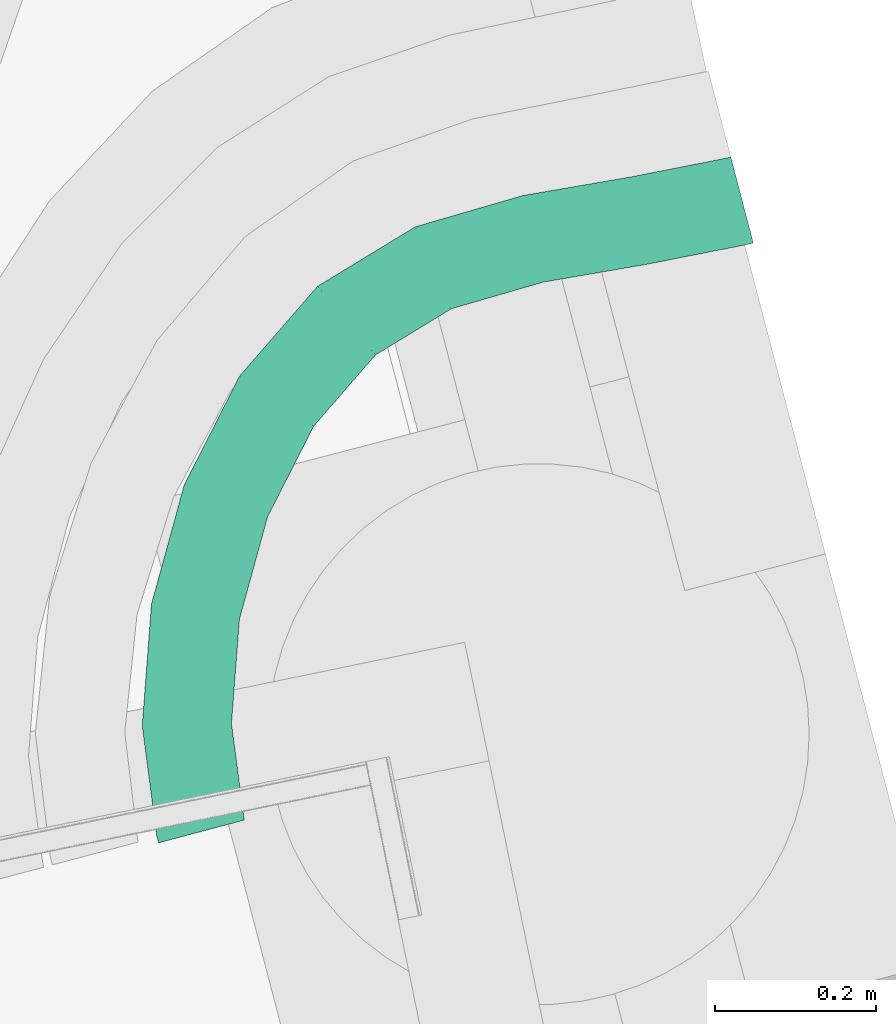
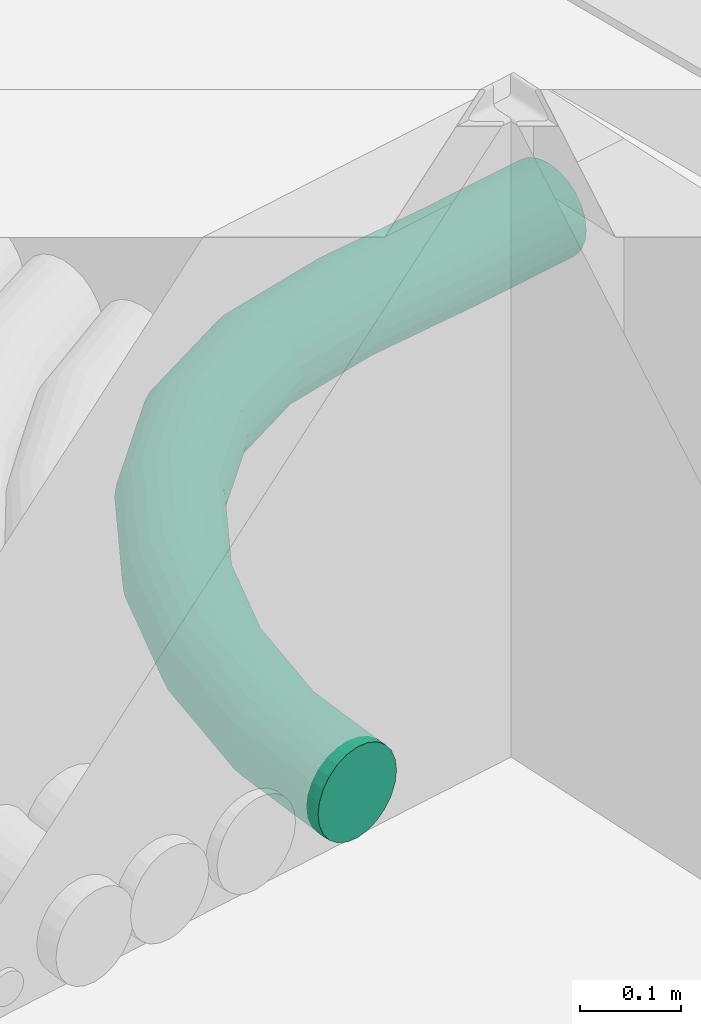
# One storey, part 23 of 29: 1 flow segment.
"""IFC2X3 building model written with IfcOpenShell, lengths in centimetres."""

import ifcopenshell
import ifcopenshell.guid

model = None  # the IFC model being written
_history = None  # IfcOwnerHistory: only IFC2X3 demands one
_inside = {}  # id of a spatial element -> (the spatial element, [elements in it])
_under = {}  # id of a project, library or spatial element -> (it, [spatial elements below it])
_declared = {}  # id of a project -> (the project, [libraries it declares])
_typed = {}  # id of a type object -> (the type object, [elements of that type])
_made_of = {}  # id of a material, layer set ... -> (it, [elements and type objects made of it])


def new_model(schema):
    """Start an empty IFC model of exactly this schema.

    Asked for "IFC4X3", IfcOpenShell would pick the latest addendum, in which some entities
    have other attributes; the version numbers below select the first issue.
    IFC2X3 requires an IfcOwnerHistory on every rooted entity: one is made here for all.
    """
    global model, _history
    if schema == "IFC4X3":
        model = ifcopenshell.file(schema_version=(4, 3, 0, 0))
    else:
        model = ifcopenshell.file(schema=schema)
    _inside.clear()
    _under.clear()
    _declared.clear()
    _typed.clear()
    _made_of.clear()
    _history = None
    if model.schema == "IFC2X3":
        org = make("IfcOrganization", Name="unknown")
        user = make(
            "IfcPersonAndOrganization",
            ThePerson=make("IfcPerson", FamilyName="unknown"),
            TheOrganization=org,
        )
        app = make(
            "IfcApplication",
            ApplicationDeveloper=org,
            Version="unknown",
            ApplicationFullName="unknown",
            ApplicationIdentifier="unknown",
        )
        _history = make(
            "IfcOwnerHistory",
            OwningUser=user,
            OwningApplication=app,
            ChangeAction="ADDED",
            CreationDate=0,
        )
    return model


def make(cls, **values):
    """One entity of the class cls with the attributes given. An attribute that is None is left unset."""
    return model.create_entity(
        cls, **{name: value for name, value in values.items() if value is not None}
    )


def entity(cls, *values):
    """Any entity or typed value of the class cls, its attributes in the order of the schema. None: left unset."""
    e = model.create_entity(cls)
    for i, value in enumerate(values):
        if value is not None:
            e[i] = value
    return e


def rooted(cls, **values):
    """An entity with a GlobalId (a new one), such as an element, a storey or a relation."""
    return make(cls, GlobalId=ifcopenshell.guid.new(), OwnerHistory=_history, **values)


def si_unit(unit_type, name, prefix=None):
    """IfcSIUnit, for example si_unit("LENGTHUNIT", "METRE", prefix="MILLI")."""
    return make("IfcSIUnit", UnitType=unit_type, Prefix=prefix, Name=name)


def converted_unit(unit_type, name, factor, base, dimensions=None, offset=None):
    """IfcConversionBasedUnit, such as the inch: factor (a typed value) times the base unit."""
    return make(
        "IfcConversionBasedUnit"
        if offset is None
        else "IfcConversionBasedUnitWithOffset",
        ConversionOffset=offset,
        Dimensions=None
        if dimensions is None
        else entity("IfcDimensionalExponents", *dimensions),
        UnitType=unit_type,
        Name=name,
        ConversionFactor=make(
            "IfcMeasureWithUnit", ValueComponent=factor, UnitComponent=base
        ),
    )


def derived_unit(unit_type, elements):
    """IfcDerivedUnit: a product of units, each with its exponent."""
    return make(
        "IfcDerivedUnit",
        Elements=[
            make("IfcDerivedUnitElement", Unit=unit, Exponent=power)
            for unit, power in elements
        ],
        UnitType=unit_type,
    )


def assignment(units):
    """IfcUnitAssignment: the units of a project."""
    return None if units is None else make("IfcUnitAssignment", Units=units)


def point(xyz):
    """IfcCartesianPoint."""
    return None if xyz is None else make("IfcCartesianPoint", Coordinates=xyz)


def direction(xyz):
    """IfcDirection."""
    return None if xyz is None else make("IfcDirection", DirectionRatios=xyz)


def frame(location, z_axis=None, x_axis=None):
    """IfcAxis2Placement3D, a coordinate frame: its origin and axes. An axis left out is left unset."""
    return make(
        "IfcAxis2Placement3D",
        Location=point(location),
        Axis=direction(z_axis),
        RefDirection=direction(x_axis),
    )


def origin():
    """The frame at (0, 0, 0) with its axes left unset."""
    return frame((0.0, 0.0, 0.0))


def place(relative_to, where):
    """IfcLocalPlacement: puts the frame where relative to a parent placement (None: the world)."""
    return make(
        "IfcLocalPlacement", PlacementRelTo=relative_to, RelativePlacement=where
    )


def context(
    kind, dimensions, precision=None, world=None, true_north=None, identifier=None
):
    """IfcGeometricRepresentationContext, for example the 3D "Model" context."""
    return make(
        "IfcGeometricRepresentationContext",
        ContextIdentifier=identifier,
        ContextType=kind,
        CoordinateSpaceDimension=dimensions,
        Precision=precision,
        WorldCoordinateSystem=world,
        TrueNorth=true_north,
    )


def subcontext(parent, identifier, kind, view, scale=None):
    """IfcGeometricRepresentationSubContext, for example "Body" below "Model"."""
    return make(
        "IfcGeometricRepresentationSubContext",
        ContextIdentifier=identifier,
        ContextType=kind,
        ParentContext=parent,
        TargetScale=scale,
        TargetView=view,
    )


def project(units=None, contexts=None):
    """IfcProject with its units and contexts."""
    return rooted(
        "IfcProject",
        Name="project",
        RepresentationContexts=contexts,
        UnitsInContext=assignment(units),
    )


def spatial(cls, under=None, at=None, **own):
    """A site, building, storey or space (cls), placed at a placement, below another one or the project."""
    s = rooted(cls, ObjectPlacement=at, **own)
    if under is not None:
        _under.setdefault(under.id(), (under, []))[1].append(s)
    return s


def faces_of(points, faces, orient=None, outer=None):
    """IfcFace entities. A face is a list of loops; a loop is a list of indices into points, from 0.

    orient and outer hold one flag for each loop. By default every Orientation is true, the
    first loop of a face is its IfcFaceOuterBound and the others are IfcFaceBound.
    """
    made = []
    for i, loops in enumerate(faces):
        bounds = []
        for j, loop in enumerate(loops):
            is_outer = j == 0 if outer is None else outer[i][j]
            bounds.append(
                make(
                    "IfcFaceOuterBound" if is_outer else "IfcFaceBound",
                    Bound=make("IfcPolyLoop", Polygon=[points[k] for k in loop]),
                    Orientation=True if orient is None else orient[i][j],
                )
            )
        made.append(make("IfcFace", Bounds=bounds))
    return made


def faceted_brep(points, faces, orient=None, outer=None, voids=None):
    """IfcFacetedBrep: a solid bounded by flat faces; with voids (closed shells), ...WithVoids."""
    shared = [point(p) for p in points]
    hull = make("IfcClosedShell", CfsFaces=faces_of(shared, faces, orient, outer))
    if voids is None:
        return make("IfcFacetedBrep", Outer=hull)
    return make(
        "IfcFacetedBrepWithVoids",
        Outer=hull,
        Voids=[
            make(cls, CfsFaces=faces_of(shared, fs, o, b)) for cls, fs, o, b in voids
        ],
    )


def shape(context_of_items, identifier, shape_type, items):
    """IfcShapeRepresentation: the items that make up one representation, for example the "Body"."""
    return make(
        "IfcShapeRepresentation",
        ContextOfItems=context_of_items,
        RepresentationIdentifier=identifier,
        RepresentationType=shape_type,
        Items=items,
    )


def made_of(thing, what):
    """Note that an element or type object is made of a material, layer set ...; save() writes the relation."""
    if what is not None:
        _made_of.setdefault(what.id(), (what, []))[1].append(thing)
    return thing


def type_object(cls, material=None, **own):
    """A type object (cls), such as IfcWallType, which elements share."""
    return made_of(rooted(cls, **own), material)


def element(
    cls,
    number,
    at=None,
    inside=None,
    cuts=None,
    type_object=None,
    material=None,
    context=None,
    identifier="Body",
    shape_type=None,
    held_by="IfcProductDefinitionShape",
    body=None,
    shapes=None,
    **own,
):
    """One element of the class cls, such as IfcWall. Its Tag is "e" and its number.

    at: its placement. inside: the storey or other place that contains it. cuts: it is an
    opening in that element (IfcRelVoidsElement). A single representation is given by context,
    identifier, shape_type and body (its items); several are given by shapes. held_by: the class
    of the entity that holds the representations. save() writes the other relations.
    """
    e = rooted(cls, Tag="e%d" % number, ObjectPlacement=at, **own)
    if body is not None:
        shapes = [shape(context, identifier, shape_type, body)]
    if shapes is not None:
        e.Representation = make(held_by, Representations=shapes)
    if inside is not None:
        _inside.setdefault(inside.id(), (inside, []))[1].append(e)
    if cuts is not None:
        rooted(
            "IfcRelVoidsElement", RelatingBuildingElement=cuts, RelatedOpeningElement=e
        )
    if type_object is not None:
        _typed.setdefault(type_object.id(), (type_object, []))[1].append(e)
    return made_of(e, material)


def aggregate(whole, parts):
    """IfcRelAggregates: a whole, such as a stair, and the parts it consists of."""
    return rooted("IfcRelAggregates", RelatingObject=whole, RelatedObjects=parts)


def save(model, path):
    """Write the relations noted so far, then the file.

    IfcRelAggregates (storeys below a building ...), IfcRelContainedInSpatialStructure (elements
    in a storey), IfcRelDefinesByType, IfcRelAssociatesMaterial and IfcRelDeclares: one each for
    every whole, place, type object, material and project.
    """
    for whole, parts in _under.values():
        aggregate(whole, parts)
    for where, things in _inside.values():
        rooted(
            "IfcRelContainedInSpatialStructure",
            RelatedElements=things,
            RelatingStructure=where,
        )
    for kind, things in _typed.values():
        rooted("IfcRelDefinesByType", RelatedObjects=things, RelatingType=kind)
    for what, things in _made_of.values():
        rooted("IfcRelAssociatesMaterial", RelatedObjects=things, RelatingMaterial=what)
    for by, libraries in _declared.values():
        rooted("IfcRelDeclares", RelatingContext=by, RelatedDefinitions=libraries)
    model.write(path)


model = new_model("IFC2X3")

# Units and contexts
model_context = context("Model", 3, precision=0.001, world=origin(), true_north=direction((6.12303176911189e-17, 1.0)))
body_context = subcontext(model_context, "Body", "Model", "MODEL_VIEW")
ifc_project = project(units=[si_unit("LENGTHUNIT", "METRE", prefix="CENTI"), si_unit("AREAUNIT", "SQUARE_METRE"), si_unit("VOLUMEUNIT", "CUBIC_METRE"), converted_unit("PLANEANGLEUNIT", "DEGREE", entity("IfcRatioMeasure", 0.0174532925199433), si_unit("PLANEANGLEUNIT", "RADIAN"), dimensions=[0, 0, 0, 0, 0, 0, 0]), si_unit("MASSUNIT", "GRAM", prefix="KILO"), derived_unit("MASSDENSITYUNIT", [(si_unit("MASSUNIT", "GRAM", prefix="KILO"), 1), (si_unit("LENGTHUNIT", "METRE"), -3)]), si_unit("TIMEUNIT", "SECOND"), si_unit("FREQUENCYUNIT", "HERTZ"), si_unit("THERMODYNAMICTEMPERATUREUNIT", "DEGREE_CELSIUS"), derived_unit("THERMALTRANSMITTANCEUNIT", [(si_unit("MASSUNIT", "GRAM", prefix="KILO"), 1), (si_unit("THERMODYNAMICTEMPERATUREUNIT", "KELVIN"), -1), (si_unit("TIMEUNIT", "SECOND"), -3)]), derived_unit("VOLUMETRICFLOWRATEUNIT", [(si_unit("LENGTHUNIT", "METRE"), 3), (si_unit("TIMEUNIT", "SECOND"), -1)]), si_unit("ELECTRICCURRENTUNIT", "AMPERE"), si_unit("ELECTRICVOLTAGEUNIT", "VOLT"), si_unit("POWERUNIT", "WATT"), si_unit("FORCEUNIT", "NEWTON"), si_unit("ILLUMINANCEUNIT", "LUX"), si_unit("LUMINOUSFLUXUNIT", "LUMEN"), si_unit("LUMINOUSINTENSITYUNIT", "CANDELA"), derived_unit("USERDEFINED", [(si_unit("MASSUNIT", "GRAM", prefix="KILO"), -1), (si_unit("LENGTHUNIT", "METRE"), -2), (si_unit("TIMEUNIT", "SECOND"), 3), (si_unit("LUMINOUSFLUXUNIT", "LUMEN"), 1)]), derived_unit("LINEARVELOCITYUNIT", [(si_unit("LENGTHUNIT", "METRE"), 1), (si_unit("TIMEUNIT", "SECOND"), -1)]), si_unit("PRESSUREUNIT", "PASCAL"), derived_unit("USERDEFINED", [(si_unit("LENGTHUNIT", "METRE"), -2), (si_unit("MASSUNIT", "GRAM", prefix="KILO"), 1), (si_unit("TIMEUNIT", "SECOND"), -2)])], contexts=[model_context])

# Site, building, storey
site_placement = place(None, origin())
site = spatial("IfcSite", under=ifc_project, at=site_placement, Name="Default", CompositionType="ELEMENT")
building_placement = place(site_placement, origin())
building = spatial("IfcBuilding", under=site, at=building_placement, Name="CAGE 03", CompositionType="ELEMENT")
storey_placement = place(building_placement, frame((0.0, 0.0, -34.0)))
storey = spatial("IfcBuildingStorey", under=building, at=storey_placement, Name="+3.66", CompositionType="ELEMENT", Elevation=-34.0000000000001)

# Flow segment
duct_segment_type = type_object("IfcDuctSegmentType", Name="Gaine flexible circulaire:Flex - Round", PredefinedType="FLEXIBLESEGMENT")
flow_segment_placement = place(storey_placement, frame((11615.560215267, 3547.95736597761, -79.1595272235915)))
element("IfcFlowSegment", 1, at=flow_segment_placement, inside=storey, type_object=duct_segment_type, Name="Gaine flexible circulaire:Flex - Round", ObjectType="Gaine flexible circulaire:Flex - Round", context=body_context, shape_type="Brep", body=[
    faceted_brep([(2.90191541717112, 0.348971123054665, 8.4095272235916), (2.37093246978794, 0.207709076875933, 7.08303197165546), (2.18982407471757, 0.159527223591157, 5.6595272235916), (2.37093246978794, 0.207709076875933, 4.23602247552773), (2.90191541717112, 0.348971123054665, 2.9095272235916), (3.74658730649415, 0.573686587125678, 1.77043992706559), (4.84738514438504, 0.86654148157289, 0.896387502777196), (6.12929137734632, 1.20757822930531, 0.346935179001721), (7.50494621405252, 1.57355573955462, 0.159527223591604), (8.88060105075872, 1.93953324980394, 0.346935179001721), (10.16250728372, 2.28056999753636, 0.896387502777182), (11.2633051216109, 2.57342489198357, 1.77043992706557), (12.1079770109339, 2.79814035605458, 2.90952722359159), (12.6389599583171, 2.93940240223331, 4.23602247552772), (12.8200683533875, 2.98758425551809, 5.65952722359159), (12.6389599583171, 2.93940240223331, 7.08303197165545), (12.1079770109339, 2.79814035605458, 8.40952722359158), (11.2633051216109, 2.57342489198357, 9.5486145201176), (10.16250728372, 2.28056999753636, 10.422666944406), (8.88060105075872, 1.93953324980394, 10.9721192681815), (7.50494621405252, 1.57355573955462, 11.1595272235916), (6.12929137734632, 1.20757822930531, 10.9721192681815), (4.84738514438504, 0.86654148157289, 10.422666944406), (3.74658730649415, 0.573686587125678, 9.54861452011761), (1.95283391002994, 1.05033788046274, 5.6595272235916), (2.13705214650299, 1.08683030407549, 4.2360224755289), (2.67715268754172, 1.19382067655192, 2.90952722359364), (3.53632857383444, 1.36401778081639, 1.77043992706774), (4.65602838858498, 1.5858229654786, 0.896387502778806), (5.95994643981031, 1.844120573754, 0.346935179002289), (7.35922286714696, 2.12130805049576, 0.159527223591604), (8.75849929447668, 2.39849552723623, 0.346935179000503), (10.0624173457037, 2.65679313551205, 0.89638750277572), (11.182117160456, 2.8785983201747, 1.7704399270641), (12.5813935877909, 3.15578579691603, 4.2360224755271), (12.765611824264, 3.19227822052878, 5.65952722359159), (12.0412930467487, 3.04879542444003, 2.90952722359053), (12.0412930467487, 3.04879542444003, 8.4095272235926), (11.182117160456, 2.8785983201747, 9.54861452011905), (12.5813935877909, 3.15578579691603, 7.083031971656), (8.75849929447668, 2.39849552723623, 10.9721192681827), (7.35922286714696, 2.12130805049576, 11.1595272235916), (10.0624173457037, 2.65679313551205, 10.4226669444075), (5.95994643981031, 1.844120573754, 10.9721192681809), (4.65602838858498, 1.5858229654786, 10.4226669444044), (3.53632857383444, 1.36401778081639, 9.5486145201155), (2.67715268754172, 1.19382067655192, 8.40952722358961), (2.13705214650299, 1.08683030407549, 7.08303197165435), (73.1134058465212, 84.9024727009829, 7.08303197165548), (73.2522412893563, 84.3708501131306, 8.40952722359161), (73.4730965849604, 83.525160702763, 9.54861452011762), (73.7609208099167, 82.4230368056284, 10.422666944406), (74.0960992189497, 81.1395863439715, 10.9721192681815), (74.4557899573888, 79.7622743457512, 11.1595272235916), (74.8154806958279, 78.3849623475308, 10.9721192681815), (75.1506591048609, 77.1015118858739, 10.422666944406), (75.4384833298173, 75.9993879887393, 9.54861452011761), (75.6593386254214, 75.1536985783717, 8.4095272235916), (75.7981740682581, 74.6220759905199, 7.08303197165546), (75.8455282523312, 74.4407494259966, 5.6595272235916), (75.7981740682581, 74.6220759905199, 4.23602247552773), (75.6593386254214, 75.1536985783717, 2.9095272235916), (75.4384833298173, 75.9993879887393, 1.77043992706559), (75.1506591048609, 77.1015118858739, 0.896387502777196), (74.8154806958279, 78.3849623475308, 0.346935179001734), (74.4557899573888, 79.7622743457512, 0.159527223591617), (74.0960992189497, 81.1395863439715, 0.346935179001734), (73.7609208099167, 82.4230368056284, 0.896387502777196), (73.4730965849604, 83.525160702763, 1.7704399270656), (73.2522412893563, 84.3708501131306, 2.90952722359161), (73.1134058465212, 84.9024727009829, 4.23602247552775), (73.0660516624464, 85.0837992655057, 5.65952722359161), (0.159527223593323, 14.650043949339, 5.65952722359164), (0.347874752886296, 14.6552215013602, 4.236022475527), (0.900081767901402, 14.6704013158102, 2.90952722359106), (1.77851627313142, 14.6945489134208, 1.77043992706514), (2.9233144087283, 14.7260186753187, 0.896387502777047), (4.25646007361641, 14.7626659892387, 0.346935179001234), (5.68710159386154, 14.8019934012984, 0.159527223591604), (7.1177431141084, 14.841320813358, 0.3469351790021), (8.45088877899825, 14.8779681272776, 0.896387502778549), (9.59568691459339, 14.909437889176, 1.77043992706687), (10.4741214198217, 14.9335854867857, 2.90952722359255), (11.0263284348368, 14.9487653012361, 4.23602247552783), (11.2146759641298, 14.9539428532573, 5.65952722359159), (11.0263284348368, 14.9487653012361, 7.08303197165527), (10.4741214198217, 14.9335854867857, 8.40952722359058), (9.59568691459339, 14.909437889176, 9.54861452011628), (7.1177431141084, 14.841320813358, 10.9721192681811), (5.68710159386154, 14.8019934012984, 11.1595272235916), (8.45088877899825, 14.8779681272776, 10.4226669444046), (4.25646007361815, 14.7626659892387, 10.972119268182), (2.9233144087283, 14.7260186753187, 10.4226669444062), (1.77851627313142, 14.6945489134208, 9.5486145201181), (0.900081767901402, 14.6704013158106, 8.40952722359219), (0.347874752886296, 14.6552215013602, 7.0830319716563), (1.31166755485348, 29.7521876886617, 5.65952722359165), (1.49715811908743, 29.7199164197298, 4.23602247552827), (2.04098893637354, 29.6253018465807, 2.90952722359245), (2.90609883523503, 29.4747917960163, 1.77043992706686), (4.03353200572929, 29.2786432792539, 0.896387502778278), (5.34645574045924, 29.0502234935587, 0.346935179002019), (6.75539645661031, 28.8050988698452, 0.15952722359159), (8.16433717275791, 28.5599742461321, 0.346935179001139), (9.47726090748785, 28.331554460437, 0.896387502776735), (10.6046940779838, 28.1354059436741, 1.77043992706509), (11.4698039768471, 27.9848958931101, 2.90952722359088), (12.0136347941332, 27.890281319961, 4.2360224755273), (12.1991253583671, 27.8580100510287, 5.65952722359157), (12.0136347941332, 27.890281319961, 7.08303197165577), (11.4698039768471, 27.9848958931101, 8.40952722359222), (10.6046940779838, 28.1354059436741, 9.54861452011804), (8.16433717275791, 28.5599742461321, 10.972119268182), (6.75539645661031, 28.8050988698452, 11.1595272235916), (9.47726090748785, 28.331554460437, 10.4226669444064), (5.34645574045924, 29.0502234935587, 10.9721192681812), (4.03353200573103, 29.2786432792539, 10.4226669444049), (2.90609883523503, 29.4747917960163, 9.54861452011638), (2.04098893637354, 29.6253018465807, 8.40952722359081), (1.49715811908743, 29.7199164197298, 7.08303197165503), (5.37177749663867, 44.516277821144, 5.65952722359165), (5.54743096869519, 44.4482351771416, 4.23602247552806), (6.06242089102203, 44.2487442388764, 2.90952722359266), (6.88165155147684, 43.9313999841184, 1.77043992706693), (7.949293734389, 43.5178288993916, 0.896387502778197), (9.19258938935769, 43.0362151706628, 0.34693517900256), (10.5268099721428, 42.5193799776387, 0.159527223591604), (11.8610305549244, 42.002544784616, 0.346935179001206), (13.1043262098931, 41.5209310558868, 0.896387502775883), (14.1719683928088, 41.1073599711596, 1.77043992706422), (14.9911990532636, 40.7900157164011, 2.90952722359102), (15.5061889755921, 40.5905247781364, 4.23602247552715), (15.6818424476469, 40.5224821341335, 5.65952722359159), (15.5061889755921, 40.5905247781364, 7.08303197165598), (14.9911990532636, 40.7900157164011, 8.40952722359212), (14.171968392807, 41.1073599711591, 9.54861452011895), (11.8610305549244, 42.002544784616, 10.972119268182), (10.5268099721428, 42.5193799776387, 11.1595272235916), (13.1043262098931, 41.5209310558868, 10.4226669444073), (9.19258938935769, 43.0362151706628, 10.9721192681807), (7.949293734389, 43.5178288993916, 10.422666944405), (6.88165155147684, 43.9313999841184, 9.54861452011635), (6.06242089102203, 44.2487442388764, 8.40952722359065), (5.54743096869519, 44.4482351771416, 7.08303197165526), (12.2222541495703, 57.9765332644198, 5.65952722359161), (12.3788613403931, 57.8710672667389, 4.23602247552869), (12.8380103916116, 57.5618566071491, 2.90952722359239), (13.5684110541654, 57.0699734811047, 1.77043992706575), (14.5202877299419, 56.4289389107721, 0.89638750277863), (15.6287715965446, 55.682438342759, 0.346935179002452), (16.8183213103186, 54.881344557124, 0.159527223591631), (18.0078710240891, 54.0802507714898, 0.346935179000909), (19.1163548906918, 53.3337502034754, 0.896387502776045), (20.0682315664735, 52.6927156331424, 1.77043992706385), (20.7986322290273, 52.2008325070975, 2.90952722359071), (21.2577812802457, 51.8916218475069, 4.23602247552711), (21.4143884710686, 51.786155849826, 5.65952722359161), (21.2577812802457, 51.8916218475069, 7.08303197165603), (20.7986322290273, 52.2008325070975, 8.40952722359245), (20.0682315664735, 52.6927156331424, 9.54861452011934), (18.0078710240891, 54.0802507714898, 10.9721192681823), (16.8183213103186, 54.881344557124, 11.1595272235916), (19.1163548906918, 53.3337502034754, 10.4226669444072), (15.6287715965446, 55.682438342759, 10.9721192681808), (14.5202877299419, 56.4289389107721, 10.4226669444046), (13.5684110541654, 57.0699734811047, 9.54861452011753), (12.8380103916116, 57.5618566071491, 8.4095272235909), (12.3788613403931, 57.8710672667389, 7.08303197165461), (21.8546227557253, 69.0797445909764, 5.65952722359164), (21.9770269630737, 68.9348528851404, 4.23602247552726), (22.3358979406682, 68.5100518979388, 2.9095272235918), (22.9067792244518, 67.8342911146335, 1.77043992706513), (23.6507661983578, 66.9536225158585, 0.896387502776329), (24.5171573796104, 65.9280622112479, 0.346935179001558), (25.4469096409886, 64.8275004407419, 0.159527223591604), (26.3766619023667, 63.7269386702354, 0.346935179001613), (27.2430530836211, 62.7013783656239, 0.896387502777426), (27.987040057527, 61.8207097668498, 1.77043992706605), (28.5579213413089, 61.144948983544, 2.90952722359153), (28.9167923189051, 60.7201479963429, 4.23602247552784), (29.0391965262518, 60.5752562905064, 5.65952722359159), (28.9167923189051, 60.7201479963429, 7.08303197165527), (28.5579213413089, 61.144948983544, 8.4095272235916), (27.987040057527, 61.8207097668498, 9.54861452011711), (26.3766619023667, 63.726938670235, 10.9721192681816), (25.4469096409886, 64.8275004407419, 11.1595272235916), (27.2430530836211, 62.7013783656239, 10.4226669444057), (24.5171573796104, 65.9280622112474, 10.9721192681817), (23.6507661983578, 66.9536225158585, 10.4226669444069), (22.9067792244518, 67.8342911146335, 9.54861452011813), (22.3358979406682, 68.5100518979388, 8.40952722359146), (21.9770269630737, 68.9348528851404, 7.08303197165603), (33.9723429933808, 76.4545980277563, 5.65952722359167), (34.0485412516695, 76.2815853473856, 4.2360224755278), (34.2719432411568, 75.7743378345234, 2.90952722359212), (34.6273244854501, 74.9674235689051, 1.77043992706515), (35.0904663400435, 73.9158324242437, 0.896387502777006), (35.6298064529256, 72.6912285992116, 0.34693517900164), (36.2085896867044, 71.3770668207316, 0.159527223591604), (36.787372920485, 70.0629050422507, 0.346935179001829), (37.3267130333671, 68.838301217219, 0.896387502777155), (37.7898548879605, 67.786710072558, 1.77043992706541), (38.1452361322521, 66.979795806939, 2.90952722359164), (38.3686381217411, 66.4725482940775, 4.236022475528), (38.4448363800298, 66.2995356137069, 5.65952722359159), (38.3686381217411, 66.4725482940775, 7.0830319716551), (38.1452361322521, 66.979795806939, 8.40952722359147), (37.7898548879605, 67.786710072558, 9.54861452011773), (36.787372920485, 70.0629050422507, 10.9721192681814), (36.2085896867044, 71.3770668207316, 11.1595272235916), (37.3267130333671, 68.838301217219, 10.422666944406), (35.6298064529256, 72.6912285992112, 10.9721192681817), (35.0904663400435, 73.9158324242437, 10.4226669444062), (34.6273244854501, 74.9674235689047, 9.54861452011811), (34.2719432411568, 75.7743378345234, 8.40952722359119), (34.0485412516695, 76.2815853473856, 7.08303197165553), (47.3029755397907, 80.3311856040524, 5.65952722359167), (47.3451586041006, 80.1482812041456, 4.2360224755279), (47.4688330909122, 79.6120326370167, 2.90952722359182), (47.665570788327, 78.7589843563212, 1.77043992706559), (47.921964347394, 77.6472701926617, 0.896387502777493), (48.2205409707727, 76.352651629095, 0.346935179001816), (48.540953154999, 74.9633547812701, 0.15952722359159), (48.8613653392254, 73.574057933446, 0.346935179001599), (49.159941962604, 72.2794393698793, 0.896387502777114), (49.416335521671, 71.1677252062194, 1.77043992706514), (49.6130732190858, 70.3146769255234, 2.90952722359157), (49.7367477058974, 69.7784283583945, 4.23602247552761), (49.7789307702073, 69.5955239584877, 5.65952722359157), (49.7367477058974, 69.7784283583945, 7.08303197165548), (49.6130732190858, 70.3146769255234, 8.40952722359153), (49.416335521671, 71.167725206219, 9.54861452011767), (48.8613653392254, 73.574057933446, 10.9721192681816), (48.540953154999, 74.9633547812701, 11.1595272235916), (49.159941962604, 72.2794393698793, 10.422666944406), (48.2205409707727, 76.352651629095, 10.9721192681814), (47.921964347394, 77.6472701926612, 10.4226669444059), (47.6655707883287, 78.7589843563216, 9.54861452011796), (47.4688330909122, 79.6120326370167, 8.40952722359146), (47.3451586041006, 80.1482812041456, 7.08303197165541), (60.6171297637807, 82.4310627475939, 4.23602247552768), (60.716801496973, 81.8906857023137, 2.90952722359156), (60.5831335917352, 82.6153752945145, 5.65952722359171), (60.8753563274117, 81.0310699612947, 1.77043992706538), (61.322617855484, 78.6062113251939, 0.346935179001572), (61.580844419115, 77.2062185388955, 0.159527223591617), (61.081989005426, 79.9107969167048, 0.896387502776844), (61.839070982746, 75.8062257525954, 0.346935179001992), (62.0796998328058, 74.5016401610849, 0.896387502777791), (62.2863325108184, 73.3813671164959, 1.77043992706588), (62.444887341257, 72.5217513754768, 2.90952722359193), (62.5445590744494, 71.981374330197, 4.23602247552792), (62.5785552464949, 71.7970617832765, 5.6595272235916), (62.5445590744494, 71.981374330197, 7.08303197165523), (62.444887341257, 72.5217513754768, 8.40952722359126), (62.2863325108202, 73.3813671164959, 9.5486145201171), (62.0796998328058, 74.5016401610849, 10.4226669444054), (61.839070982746, 75.8062257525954, 10.9721192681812), (61.580844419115, 77.2062185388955, 11.1595272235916), (61.322617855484, 78.6062113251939, 10.9721192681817), (61.081989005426, 79.9107969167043, 10.4226669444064), (60.8753563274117, 81.0310699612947, 9.54861452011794), (60.716801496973, 81.8906857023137, 8.40952722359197), (60.6171297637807, 82.4310627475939, 7.08303197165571), (72.95392090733, 84.8608225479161, 4.23602247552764), (73.0765407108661, 84.3249651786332, 2.90952722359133), (72.9120975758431, 85.0435935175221, 5.65952722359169), (73.2716006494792, 83.4725392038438, 1.77043992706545), (73.8218381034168, 81.067961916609, 0.346935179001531), (74.1395178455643, 79.6796785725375, 0.159527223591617), (73.5258077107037, 82.3616360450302, 0.896387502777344), (74.4571975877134, 78.2913952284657, 0.346935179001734), (74.7532279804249, 76.9977211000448, 0.896387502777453), (75.0074350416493, 75.8868179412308, 1.77043992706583), (75.2024949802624, 75.0343919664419, 2.90952722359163), (75.3251147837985, 74.498534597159, 4.23602247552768), (75.3669381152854, 74.315763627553, 5.6595272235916), (75.3251147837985, 74.498534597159, 7.08303197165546), (75.2024949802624, 75.0343919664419, 8.40952722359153), (75.0074350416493, 75.8868179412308, 9.54861452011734), (74.7532279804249, 76.9977211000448, 10.4226669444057), (74.4571975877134, 78.2913952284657, 10.9721192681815), (74.1395178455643, 79.6796785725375, 11.1595272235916), (73.8218381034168, 81.067961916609, 10.9721192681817), (73.5258077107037, 82.3616360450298, 10.4226669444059), (73.2716006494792, 83.4725392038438, 9.54861452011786), (73.0765407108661, 84.3249651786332, 8.40952722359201), (72.95392090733, 84.8608225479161, 7.08303197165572)], [[[0, 1, 2, 3, 4, 5, 6, 7, 8, 9, 10, 11, 12, 13, 14, 15, 16, 17, 18, 19, 20, 21, 22, 23]], [[2, 24, 25, 3]], [[3, 25, 26, 4]], [[4, 26, 27, 5]], [[6, 28, 29, 7]], [[7, 29, 30, 8]], [[5, 27, 28, 6]], [[31, 32, 10, 9]], [[30, 31, 9, 8]], [[10, 32, 33, 11]], [[34, 35, 14, 13]], [[36, 34, 13, 12]], [[11, 33, 36, 12]], [[16, 37, 38, 17]], [[39, 37, 16, 15]], [[14, 35, 39, 15]], [[40, 41, 20, 19]], [[42, 40, 19, 18]], [[38, 42, 18, 17]], [[22, 21, 43, 44]], [[23, 22, 44, 45]], [[20, 41, 43, 21]], [[1, 0, 46, 47]], [[2, 1, 47, 24]], [[45, 46, 0, 23]], [[48, 49, 50, 51, 52, 53, 54, 55, 56, 57, 58, 59, 60, 61, 62, 63, 64, 65, 66, 67, 68, 69, 70, 71]], [[24, 72, 73, 25]], [[25, 73, 74, 26]], [[26, 74, 75, 27]], [[27, 75, 76, 28]], [[28, 76, 77, 29]], [[78, 30, 29, 77]], [[79, 80, 32, 31]], [[78, 79, 31, 30]], [[81, 33, 32, 80]], [[82, 83, 34, 36]], [[82, 36, 33, 81]], [[84, 35, 34, 83]], [[85, 86, 37, 39]], [[84, 85, 39, 35]], [[38, 37, 86, 87]], [[88, 89, 41, 40]], [[90, 88, 40, 42]], [[87, 90, 42, 38]], [[43, 41, 89, 91]], [[44, 43, 91, 92]], [[45, 44, 92, 93]], [[47, 46, 94, 95]], [[24, 47, 95, 72]], [[93, 94, 46, 45]], [[73, 72, 96, 97]], [[74, 73, 97, 98]], [[98, 99, 75, 74]], [[76, 75, 99, 100]], [[77, 76, 100, 101]], [[78, 77, 101, 102]], [[103, 104, 80, 79]], [[102, 103, 79, 78]], [[81, 80, 104, 105]], [[106, 107, 83, 82]], [[105, 106, 82, 81]], [[84, 83, 107, 108]], [[109, 110, 86, 85]], [[108, 109, 85, 84]], [[111, 87, 86, 110]], [[112, 113, 89, 88]], [[114, 112, 88, 90]], [[114, 90, 87, 111]], [[89, 113, 115, 91]], [[91, 115, 116, 92]], [[117, 93, 92, 116]], [[94, 118, 119, 95]], [[95, 119, 96, 72]], [[118, 94, 93, 117]], [[96, 120, 121, 97]], [[97, 121, 122, 98]], [[98, 122, 123, 99]], [[99, 123, 124, 100]], [[100, 124, 125, 101]], [[126, 102, 101, 125]], [[127, 128, 104, 103]], [[126, 127, 103, 102]], [[129, 105, 104, 128]], [[130, 131, 107, 106]], [[130, 106, 105, 129]], [[132, 108, 107, 131]], [[133, 134, 110, 109]], [[132, 133, 109, 108]], [[111, 110, 134, 135]], [[136, 137, 113, 112]], [[138, 136, 112, 114]], [[135, 138, 114, 111]], [[115, 113, 137, 139]], [[116, 115, 139, 140]], [[117, 116, 140, 141]], [[119, 118, 142, 143]], [[96, 119, 143, 120]], [[141, 142, 118, 117]], [[120, 144, 145, 121]], [[121, 145, 146, 122]], [[122, 146, 147, 123]], [[123, 147, 148, 124]], [[124, 148, 149, 125]], [[150, 126, 125, 149]], [[151, 152, 128, 127]], [[150, 151, 127, 126]], [[153, 129, 128, 152]], [[154, 155, 131, 130]], [[154, 130, 129, 153]], [[156, 132, 131, 155]], [[157, 158, 134, 133]], [[156, 157, 133, 132]], [[135, 134, 158, 159]], [[160, 161, 137, 136]], [[162, 160, 136, 138]], [[159, 162, 138, 135]], [[139, 137, 161, 163]], [[140, 139, 163, 164]], [[141, 140, 164, 165]], [[143, 142, 166, 167]], [[120, 143, 167, 144]], [[165, 166, 142, 141]], [[144, 168, 169, 145]], [[145, 169, 170, 146]], [[146, 170, 171, 147]], [[147, 171, 172, 148]], [[148, 172, 173, 149]], [[174, 150, 149, 173]], [[175, 176, 152, 151]], [[174, 175, 151, 150]], [[177, 153, 152, 176]], [[178, 179, 155, 154]], [[178, 154, 153, 177]], [[180, 156, 155, 179]], [[181, 182, 158, 157]], [[180, 181, 157, 156]], [[159, 158, 182, 183]], [[184, 185, 161, 160]], [[186, 184, 160, 162]], [[183, 186, 162, 159]], [[163, 161, 185, 187]], [[164, 163, 187, 188]], [[165, 164, 188, 189]], [[167, 166, 190, 191]], [[144, 167, 191, 168]], [[189, 190, 166, 165]], [[169, 168, 192, 193]], [[170, 169, 193, 194]], [[194, 195, 171, 170]], [[172, 171, 195, 196]], [[173, 172, 196, 197]], [[174, 173, 197, 198]], [[199, 200, 176, 175]], [[198, 199, 175, 174]], [[177, 176, 200, 201]], [[202, 203, 179, 178]], [[201, 202, 178, 177]], [[180, 179, 203, 204]], [[205, 206, 182, 181]], [[204, 205, 181, 180]], [[207, 183, 182, 206]], [[208, 209, 185, 184]], [[210, 208, 184, 186]], [[210, 186, 183, 207]], [[185, 209, 211, 187]], [[187, 211, 212, 188]], [[213, 189, 188, 212]], [[190, 214, 215, 191]], [[191, 215, 192, 168]], [[214, 190, 189, 213]], [[193, 192, 216, 217]], [[194, 193, 217, 218]], [[218, 219, 195, 194]], [[196, 195, 219, 220]], [[197, 196, 220, 221]], [[198, 197, 221, 222]], [[223, 224, 200, 199]], [[222, 223, 199, 198]], [[201, 200, 224, 225]], [[226, 227, 203, 202]], [[225, 226, 202, 201]], [[204, 203, 227, 228]], [[229, 230, 206, 205]], [[228, 229, 205, 204]], [[231, 207, 206, 230]], [[232, 233, 209, 208]], [[234, 232, 208, 210]], [[234, 210, 207, 231]], [[209, 233, 235, 211]], [[211, 235, 236, 212]], [[237, 213, 212, 236]], [[214, 238, 239, 215]], [[215, 239, 216, 192]], [[238, 214, 213, 237]], [[240, 241, 218, 217]], [[242, 240, 217, 216]], [[241, 243, 219, 218]], [[244, 245, 222, 221]], [[246, 244, 221, 220]], [[243, 246, 220, 219]], [[223, 222, 245, 247]], [[224, 223, 247, 248]], [[225, 224, 248, 249]], [[227, 226, 250, 251]], [[228, 227, 251, 252]], [[249, 250, 226, 225]], [[228, 252, 253, 229]], [[229, 253, 254, 230]], [[255, 231, 230, 254]], [[231, 255, 256, 234]], [[234, 256, 257, 232]], [[258, 233, 232, 257]], [[259, 260, 236, 235]], [[258, 259, 235, 233]], [[261, 237, 236, 260]], [[262, 263, 239, 238]], [[262, 238, 237, 261]], [[242, 216, 239, 263]], [[264, 265, 241, 240]], [[266, 264, 240, 242]], [[243, 241, 265, 267]], [[268, 269, 245, 244]], [[270, 268, 244, 246]], [[267, 270, 246, 243]], [[247, 245, 269, 271]], [[248, 247, 271, 272]], [[249, 248, 272, 273]], [[251, 250, 274, 275]], [[252, 251, 275, 276]], [[273, 274, 250, 249]], [[252, 276, 277, 253]], [[253, 277, 278, 254]], [[254, 278, 279, 255]], [[255, 279, 280, 256]], [[256, 280, 281, 257]], [[282, 258, 257, 281]], [[283, 284, 260, 259]], [[282, 283, 259, 258]], [[285, 261, 260, 284]], [[286, 287, 263, 262]], [[286, 262, 261, 285]], [[266, 242, 263, 287]], [[266, 71, 70, 264]], [[264, 70, 69, 265]], [[265, 69, 68, 267]], [[270, 67, 66, 268]], [[268, 66, 65, 269]], [[270, 267, 68, 67]], [[269, 65, 64, 271]], [[271, 64, 63, 272]], [[272, 63, 62, 273]], [[274, 61, 60, 275]], [[275, 60, 59, 276]], [[273, 62, 61, 274]], [[277, 276, 59, 58]], [[278, 277, 58, 57]], [[279, 278, 57, 56]], [[281, 280, 55, 54]], [[282, 281, 54, 53]], [[56, 55, 280, 279]], [[283, 282, 53, 52]], [[284, 283, 52, 51]], [[285, 284, 51, 50]], [[287, 286, 49, 48]], [[266, 287, 48, 71]], [[285, 50, 49, 286]]]),
])

save(model, "model.ifc")
